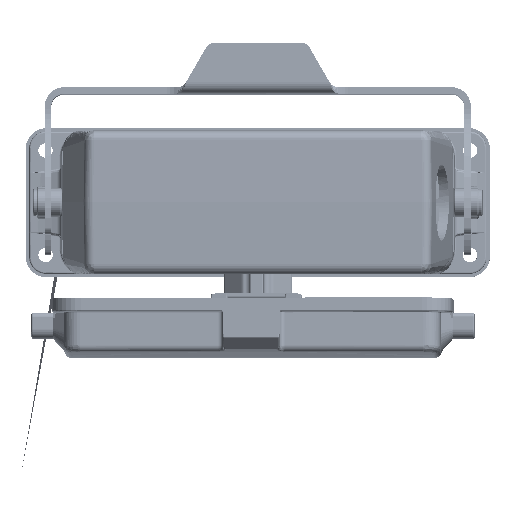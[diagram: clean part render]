
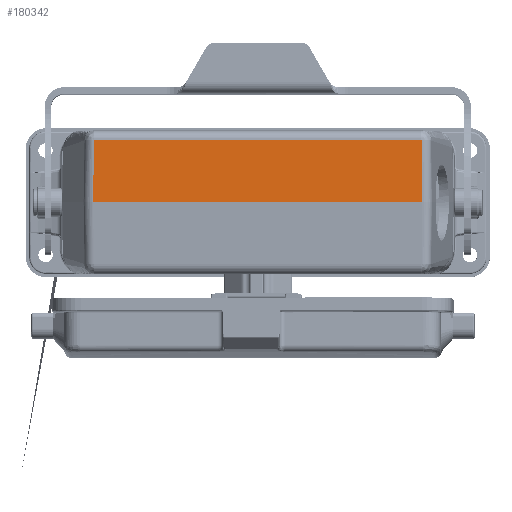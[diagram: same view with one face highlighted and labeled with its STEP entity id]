
A CAD part, top view. The second image highlights one B-rep face of the part: STEP entity #180342.
In plain terms, the highlighted planar face has unit normal (0, 0.018, 1).
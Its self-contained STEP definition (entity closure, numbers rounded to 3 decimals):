
#26239 = EDGE_CURVE ( 'NONE', #72167, #352115, #400570, .T. ) ;
#39621 = EDGE_CURVE ( 'NONE', #145999, #327680, #43911, .T. ) ;
#40797 = CARTESIAN_POINT ( 'NONE',  ( -5.963, 65.73, 120.678 ) ) ;
#43911 = LINE ( 'NONE', #343770, #301955 ) ;
#56848 = CARTESIAN_POINT ( 'NONE',  ( 94.605, 84.72, 120.347 ) ) ;
#71773 = DIRECTION ( 'NONE',  ( 1., 0., 0. ) ) ;
#72167 = VERTEX_POINT ( 'NONE', #235054 ) ;
#74994 = PLANE ( 'NONE',  #481356 ) ;
#92876 = CARTESIAN_POINT ( 'NONE',  ( -5.686, 84.653, 120.348 ) ) ;
#99704 = ORIENTED_EDGE ( 'NONE', *, *, #624091, .F. ) ;
#108366 = LINE ( 'NONE', #209455, #172927 ) ;
#109001 = CARTESIAN_POINT ( 'NONE',  ( 94.524, 84.782, 120.346 ) ) ;
#109519 = CARTESIAN_POINT ( 'NONE',  ( 94.488, 84.782, 120.346 ) ) ;
#114527 = CARTESIAN_POINT ( 'NONE',  ( -5.686, 84.653, 120.348 ) ) ;
#145999 = VERTEX_POINT ( 'NONE', #109519 ) ;
#151551 = CARTESIAN_POINT ( 'NONE',  ( 94.555, 84.77, 120.346 ) ) ;
#172927 = VECTOR ( 'NONE', #460322, 1000. ) ;
#173569 = CARTESIAN_POINT ( 'NONE',  ( 94.712, 78.345, 120.458 ) ) ;
#180342 = ADVANCED_FACE ( 'NONE', ( #234677 ), #74994, .T. ) ;
#200471 = CARTESIAN_POINT ( 'NONE',  ( 94.62, 84.653, 120.348 ) ) ;
#209455 = CARTESIAN_POINT ( 'NONE',  ( -8.48, 65.73, 120.678 ) ) ;
#228008 = VERTEX_POINT ( 'NONE', #114527 ) ;
#234677 = FACE_OUTER_BOUND ( 'NONE', #435446, .T. ) ;
#235054 = CARTESIAN_POINT ( 'NONE',  ( 94.62, 84.653, 120.348 ) ) ;
#239737 = CARTESIAN_POINT ( 'NONE',  ( -5.778, 78.345, 120.458 ) ) ;
#255826 = CARTESIAN_POINT ( 'NONE',  ( 94.488, 84.782, 120.346 ) ) ;
#273248 = EDGE_CURVE ( 'NONE', #72167, #145999, #309826, .T. ) ;
#277847 = CARTESIAN_POINT ( 'NONE',  ( 94.805, 72.038, 120.568 ) ) ;
#283515 = CARTESIAN_POINT ( 'NONE',  ( -5.589, 84.782, 120.346 ) ) ;
#301955 = VECTOR ( 'NONE', #591482, 1000. ) ;
#309826 = B_SPLINE_CURVE_WITH_KNOTS ( 'NONE', 3,
 ( #200471, #503474, #56848, #151551, #109001, #255826 ),
 .UNSPECIFIED., .F., .F.,
 ( 4, 2, 4 ),
 ( 0., 0.5, 1. ),
 .UNSPECIFIED. ) ;
#327680 = VERTEX_POINT ( 'NONE', #626440 ) ;
#343770 = CARTESIAN_POINT ( 'NONE',  ( -8.48, 84.782, 120.346 ) ) ;
#345073 = CARTESIAN_POINT ( 'NONE',  ( -5.685, 84.689, 120.347 ) ) ;
#352115 = VERTEX_POINT ( 'NONE', #481233 ) ;
#369092 = CARTESIAN_POINT ( 'NONE',  ( 94.897, 65.73, 120.678 ) ) ;
#378762 = CARTESIAN_POINT ( 'NONE',  ( 94.62, 84.653, 120.348 ) ) ;
#386335 = CARTESIAN_POINT ( 'NONE',  ( -5.871, 72.038, 120.568 ) ) ;
#390773 = CARTESIAN_POINT ( 'NONE',  ( -5.621, 84.769, 120.346 ) ) ;
#395626 = ORIENTED_EDGE ( 'NONE', *, *, #39621, .T. ) ;
#400570 = B_SPLINE_CURVE_WITH_KNOTS ( 'NONE', 3,
 ( #378762, #173569, #277847, #369092 ),
 .UNSPECIFIED., .F., .F.,
 ( 4, 4 ),
 ( 0., 1. ),
 .UNSPECIFIED. ) ;
#433423 = CARTESIAN_POINT ( 'NONE',  ( -8.48, 65.73, 120.678 ) ) ;
#435446 = EDGE_LOOP ( 'NONE', ( #496995, #479493, #99704, #450178, #489647, #395626 ) ) ;
#435809 = CARTESIAN_POINT ( 'NONE',  ( -5.963, 65.73, 120.678 ) ) ;
#450178 = ORIENTED_EDGE ( 'NONE', *, *, #26239, .F. ) ;
#460322 = DIRECTION ( 'NONE',  ( -1., 0., 0. ) ) ;
#460936 = EDGE_CURVE ( 'NONE', #327680, #228008, #508984, .T. ) ;
#479493 = ORIENTED_EDGE ( 'NONE', *, *, #565532, .F. ) ;
#481233 = CARTESIAN_POINT ( 'NONE',  ( 94.897, 65.73, 120.678 ) ) ;
#481356 = AXIS2_PLACEMENT_3D ( 'NONE', #433423, #576899, #71773 ) ;
#485500 = CARTESIAN_POINT ( 'NONE',  ( -5.554, 84.782, 120.346 ) ) ;
#489647 = ORIENTED_EDGE ( 'NONE', *, *, #273248, .T. ) ;
#496995 = ORIENTED_EDGE ( 'NONE', *, *, #460936, .T. ) ;
#503474 = CARTESIAN_POINT ( 'NONE',  ( 94.619, 84.689, 120.347 ) ) ;
#508984 = B_SPLINE_CURVE_WITH_KNOTS ( 'NONE', 3,
 ( #485500, #283515, #390773, #583260, #345073, #635379 ),
 .UNSPECIFIED., .F., .F.,
 ( 4, 2, 4 ),
 ( 0., 0.5, 1. ),
 .UNSPECIFIED. ) ;
#542999 = VERTEX_POINT ( 'NONE', #435809 ) ;
#565532 = EDGE_CURVE ( 'NONE', #542999, #228008, #572688, .T. ) ;
#572688 = B_SPLINE_CURVE_WITH_KNOTS ( 'NONE', 3,
 ( #40797, #386335, #239737, #92876 ),
 .UNSPECIFIED., .F., .F.,
 ( 4, 4 ),
 ( 0., 1. ),
 .UNSPECIFIED. ) ;
#576899 = DIRECTION ( 'NONE',  ( 0., 0.017, 1. ) ) ;
#583260 = CARTESIAN_POINT ( 'NONE',  ( -5.672, 84.72, 120.347 ) ) ;
#591482 = DIRECTION ( 'NONE',  ( -1., 0., 0. ) ) ;
#624091 = EDGE_CURVE ( 'NONE', #352115, #542999, #108366, .T. ) ;
#626440 = CARTESIAN_POINT ( 'NONE',  ( -5.554, 84.782, 120.346 ) ) ;
#635379 = CARTESIAN_POINT ( 'NONE',  ( -5.686, 84.653, 120.348 ) ) ;
